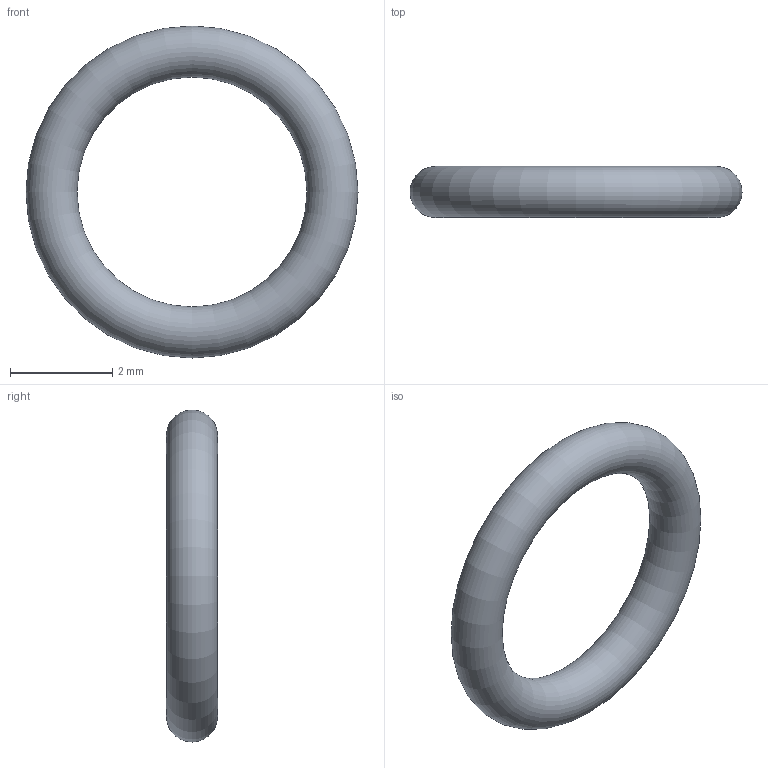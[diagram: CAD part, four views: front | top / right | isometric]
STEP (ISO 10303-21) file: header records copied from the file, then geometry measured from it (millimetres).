
FILE_DESCRIPTION( ( 'STEP AP203' ), '1' );
FILE_NAME( 'C:/Temp/Ganter_Step_05_03_2020/data/3_5/or638/O-Ring OR638-4.50-1.00-70.stp', '2020-03-12T13:44:15', ( 'License CC BY-ND 4.0' ), ( 'CADENAS' ), ' ', 'PARTsolutions', ' ' );
FILE_SCHEMA( ( 'CONFIG_CONTROL_DESIGN' ) );
Length unit declared in the file: millimetre
Products named in the file (1): _O-Ring OR638-4.50-1.00-70
Bounding box: 6.5 x 1 x 6.5 mm (x, y, z)
Volume: 13.6 mm3; surface area: 54.3 mm2
Topology: 1 solids, 1 shells, 1 faces, 2 edges, 1 vertices
Faces by surface type: torus 1
Entity records: 62 total; most frequent: CC_DESIGN_PERSON_AND_ORGANIZATION_ASSIGNMENT 5, PERSON_AND_ORGANIZATION_ROLE 4, DIRECTION 4, CARTESIAN_POINT 3, DATE_TIME_ROLE 2, CC_DESIGN_DATE_AND_TIME_ASSIGNMENT 2, AXIS2_PLACEMENT_3D 2, DIMENSIONAL_EXPONENTS 2
